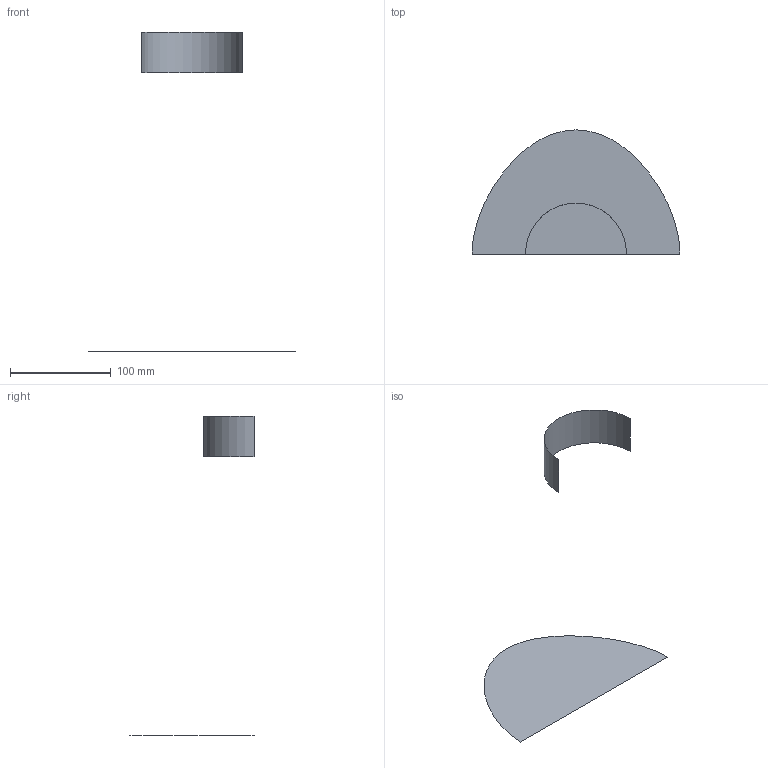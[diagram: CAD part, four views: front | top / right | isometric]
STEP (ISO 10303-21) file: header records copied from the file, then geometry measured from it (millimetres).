
FILE_DESCRIPTION(('CATIA V5 STEP Exchange'),'2;1');
FILE_NAME('C:\_Andres\UNIVERSIDAD\IQS\ASIGNATURAS\DAO\Controles\1617\c1\1original\Gumá_Abizanda_Ej00-base_v13.stp','2017-02-06T16:27:39+00:00',('none'),('none'),'CATIA Version 5-6 Release 2014 SP1 HF18','CATIA V5 STEP AP203','none');
FILE_SCHEMA(('CONFIG_CONTROL_DESIGN'));
Length unit declared in the file: millimetre
Products named in the file (1): Gumá_Abizanda_Ej00-base_v13
Bounding box: 206 x 123 x 316 mm (x, y, z)
Surface area: 25370.8 mm2 (no closed solid volume)
Topology: 0 solids, 2 shells, 2 faces, 16 edges, 26 vertices
Faces by surface type: cylinder 1, plane 1
Entity records: 230 total; most frequent: CARTESIAN_POINT 78, DIRECTION 16, COMPOSITE_CURVE_SEGMENT 9, TRIMMED_CURVE 9, AXIS2_PLACEMENT_3D 8, COMPOSITE_CURVE 7, ORIENTED_EDGE 7, EDGE_CURVE 7
